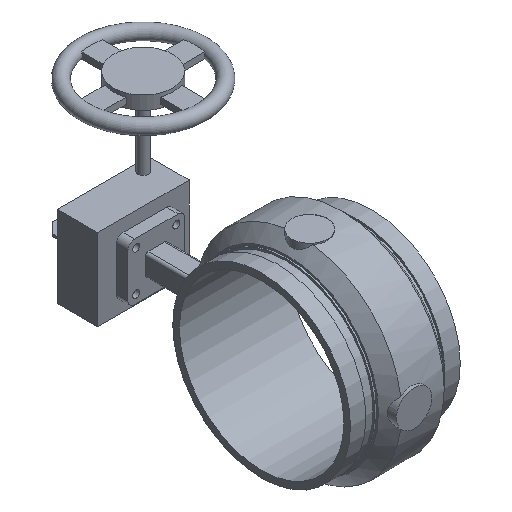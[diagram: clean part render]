
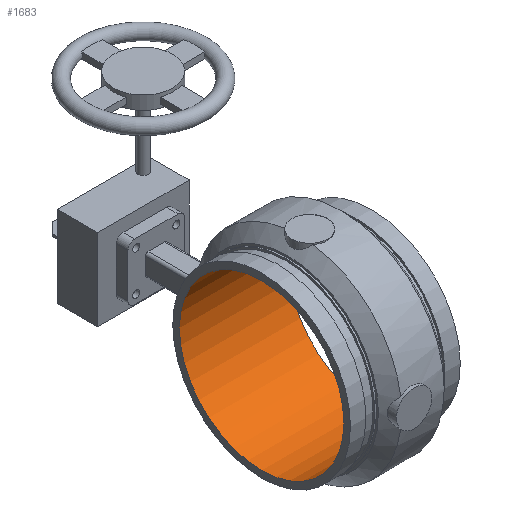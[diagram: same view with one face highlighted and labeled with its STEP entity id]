
A CAD part, isometric view. The second image highlights one B-rep face of the part: STEP entity #1683.
In plain terms, the highlighted cylindrical face has radius 101.359 mm (diameter 202.717 mm), a full revolution.
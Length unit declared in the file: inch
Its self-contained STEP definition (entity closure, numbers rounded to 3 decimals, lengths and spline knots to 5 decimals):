
#52=CYLINDRICAL_SURFACE('',#1815,3.9905);
#117=CIRCLE('',#1816,3.9905);
#118=CIRCLE('',#1817,3.9905);
#119=CIRCLE('',#1818,3.9905);
#120=CIRCLE('',#1819,3.9905);
#217=FACE_OUTER_BOUND('',#310,.T.);
#310=EDGE_LOOP('',(#1146,#1147,#1148,#1149,#1150,#1151));
#436=LINE('',#2868,#548);
#548=VECTOR('',#2085,3.9905);
#674=VERTEX_POINT('',#2864);
#675=VERTEX_POINT('',#2865);
#676=VERTEX_POINT('',#2867);
#677=VERTEX_POINT('',#2869);
#857=EDGE_CURVE('',#674,#675,#117,.T.);
#858=EDGE_CURVE('',#675,#676,#436,.T.);
#859=EDGE_CURVE('',#677,#676,#118,.T.);
#860=EDGE_CURVE('',#676,#677,#119,.T.);
#861=EDGE_CURVE('',#675,#674,#120,.T.);
#1146=ORIENTED_EDGE('',*,*,#857,.T.);
#1147=ORIENTED_EDGE('',*,*,#858,.T.);
#1148=ORIENTED_EDGE('',*,*,#859,.F.);
#1149=ORIENTED_EDGE('',*,*,#860,.F.);
#1150=ORIENTED_EDGE('',*,*,#858,.F.);
#1151=ORIENTED_EDGE('',*,*,#861,.T.);
#1683=ADVANCED_FACE('',(#217),#52,.F.);
#1815=AXIS2_PLACEMENT_3D('',#2863,#2081,#2082);
#1816=AXIS2_PLACEMENT_3D('',#2866,#2083,#2084);
#1817=AXIS2_PLACEMENT_3D('',#2870,#2086,#2087);
#1818=AXIS2_PLACEMENT_3D('',#2871,#2088,#2089);
#1819=AXIS2_PLACEMENT_3D('',#2872,#2090,#2091);
#2081=DIRECTION('center_axis',(1.,0.,0.));
#2082=DIRECTION('ref_axis',(0.,1.,0.));
#2083=DIRECTION('center_axis',(1.,0.,0.));
#2084=DIRECTION('ref_axis',(0.,0.,-1.));
#2085=DIRECTION('',(-1.,0.,0.));
#2086=DIRECTION('center_axis',(1.,0.,0.));
#2087=DIRECTION('ref_axis',(0.,0.,-1.));
#2088=DIRECTION('center_axis',(1.,0.,0.));
#2089=DIRECTION('ref_axis',(0.,0.,-1.));
#2090=DIRECTION('center_axis',(1.,0.,0.));
#2091=DIRECTION('ref_axis',(0.,0.,-1.));
#2863=CARTESIAN_POINT('Origin',(0.335,0.,
0.));
#2864=CARTESIAN_POINT('',(3.,0.,-3.9905));
#2865=CARTESIAN_POINT('',(3.,-3.9905,0.));
#2866=CARTESIAN_POINT('Origin',(3.,0.,0.));
#2867=CARTESIAN_POINT('',(-2.33,-3.9905,0.));
#2868=CARTESIAN_POINT('',(0.335,-3.9905,0.));
#2869=CARTESIAN_POINT('',(-2.33,3.9905,0.));
#2870=CARTESIAN_POINT('Origin',(-2.33,0.,0.));
#2871=CARTESIAN_POINT('Origin',(-2.33,0.,0.));
#2872=CARTESIAN_POINT('Origin',(3.,0.,0.));
